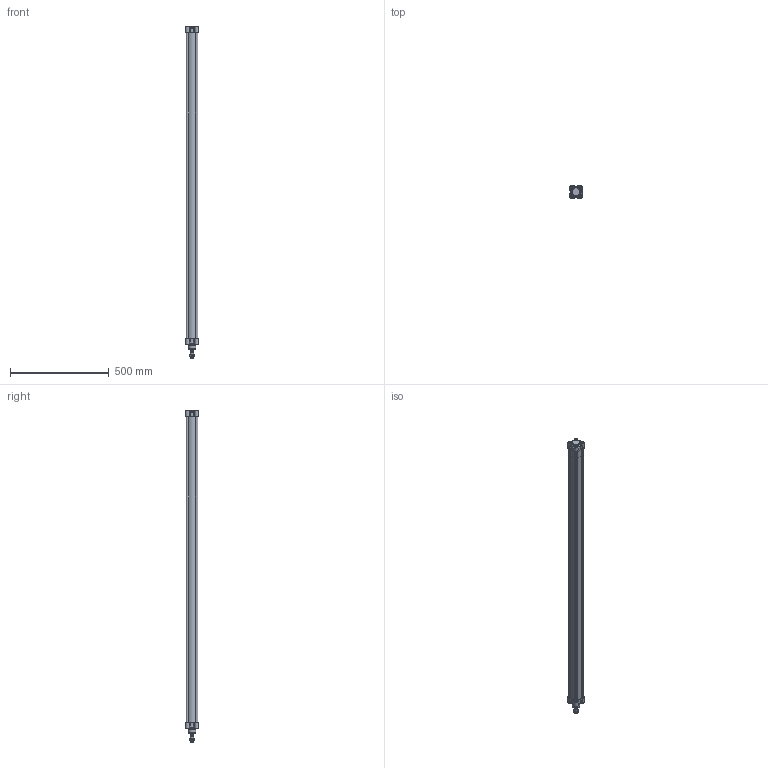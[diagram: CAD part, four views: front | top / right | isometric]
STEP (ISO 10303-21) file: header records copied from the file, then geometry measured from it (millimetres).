
FILE_DESCRIPTION(/* description */ ('Unknown'),/* implementation_level */ '2;1');
FILE_NAME(/* name */ 'HIF 50_1500',/* time_stamp */ '2025-01-13T11:43:01+01:00',/* author */ ('Unknown'),/* organization */ ('HAFNER Pneumatika Kft'),/* preprocessor_version */ 'ST-DEVELOPER v16.7',/* originating_system */ 'Solid Edge',/* authorisation */ 'Unknown');
FILE_SCHEMA (('AUTOMOTIVE_DESIGN {1 0 10303 214 3 1 1}'));
Length unit declared in the file: millimetre
Products named in the file (6): HIF 50_1500; Kit_2; Kit_1; Profilrohr; Kolbenstange; Mutter
Assembly tree (5 placements, depth 2):
  HIF 50_1500
    Kit_2
    Kit_1
    Profilrohr
    Kolbenstange
    Mutter
Bounding box: 64.99 x 64.97 x 1679 mm (x, y, z)
Volume: 1930252 mm3; surface area: 1114152.7 mm2
Topology: 5 solids, 19 shells, 1076 faces, 2677 edges, 1691 vertices
Faces by surface type: plane 385, cylinder 377, cone 106, torus 102, bspline 60, sphere 46
Full cylindrical faces by diameter (mm): 1.479 x2, 2.8 x2, 6.647 x16, 8 x8, 8.3 x8, 9 x2, 10 x2, 11.44 x2, 11.445 x2, 13 x8, 13.3 x8, 13.5 x1, 14.376 x1, 16 x1, 19.5 x1, 20 x2, 20.5 x1, 20.8 x1, 20.847 x1, 24 x2, 30 x2, 38 x1, 40 x2, 50 x2
Entity records: 40868 total; most frequent: CARTESIAN_POINT 10033, ORIENTED_EDGE 5152, DIRECTION 4858, EDGE_CURVE 2576, AXIS2_PLACEMENT_3D 1911, VERTEX_POINT 1673, FACE_BOUND 1231, EDGE_LOOP 1223
